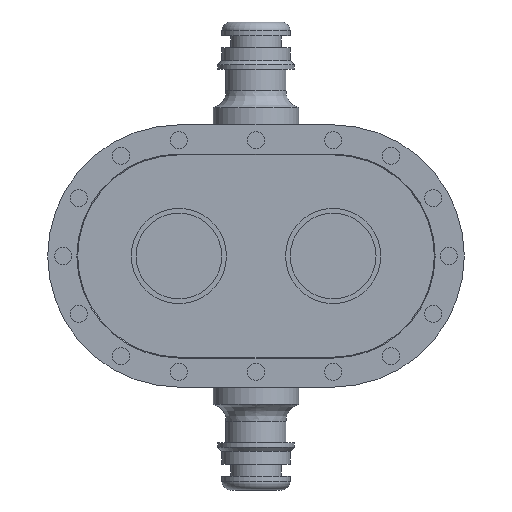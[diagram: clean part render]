
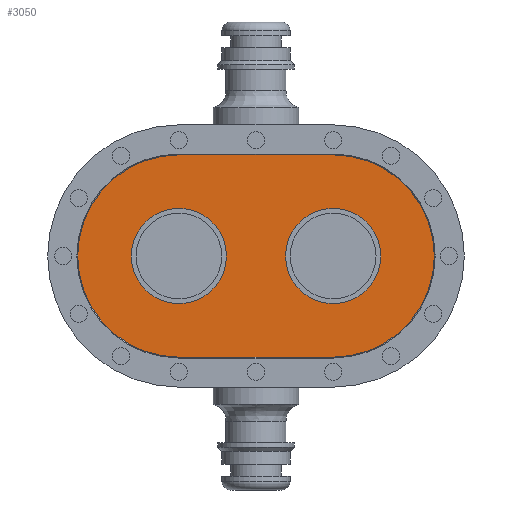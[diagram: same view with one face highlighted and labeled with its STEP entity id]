
A CAD part, front view. The second image highlights one B-rep face of the part: STEP entity #3050.
In plain terms, the highlighted planar face has unit normal (0, -1, 0).
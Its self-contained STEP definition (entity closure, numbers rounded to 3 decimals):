
#922 = PLANE('',#923);
#923 = AXIS2_PLACEMENT_3D('',#924,#925,#926);
#924 = CARTESIAN_POINT('',(-18.,0.,-23.6));
#925 = DIRECTION('',(0.,0.,1.));
#926 = DIRECTION('',(1.,0.,0.));
#975 = CYLINDRICAL_SURFACE('',#976,23.6);
#976 = AXIS2_PLACEMENT_3D('',#977,#978,#979);
#977 = CARTESIAN_POINT('',(-18.,0.,0.));
#978 = DIRECTION('',(-0.,1.,-0.));
#979 = DIRECTION('',(1.,0.,0.));
#1028 = CYLINDRICAL_SURFACE('',#1029,23.6);
#1029 = AXIS2_PLACEMENT_3D('',#1030,#1031,#1032);
#1030 = CARTESIAN_POINT('',(18.,0.,0.));
#1031 = DIRECTION('',(-0.,1.,-0.));
#1032 = DIRECTION('',(1.,0.,0.));
#1060 = PLANE('',#1061);
#1061 = AXIS2_PLACEMENT_3D('',#1062,#1063,#1064);
#1062 = CARTESIAN_POINT('',(18.,0.,23.6));
#1063 = DIRECTION('',(0.,0.,-1.));
#1064 = DIRECTION('',(-1.,0.,0.));
#2376 = VERTEX_POINT('',#2377);
#2377 = CARTESIAN_POINT('',(-18.,0.,-23.6));
#2400 = VERTEX_POINT('',#2401);
#2401 = CARTESIAN_POINT('',(18.,0.,-23.6));
#2422 = EDGE_CURVE('',#2376,#2400,#2423,.T.);
#2423 = SURFACE_CURVE('',#2424,(#2428,#2435),.PCURVE_S1.);
#2424 = LINE('',#2425,#2426);
#2425 = CARTESIAN_POINT('',(-18.,0.,-23.6));
#2426 = VECTOR('',#2427,1.);
#2427 = DIRECTION('',(1.,0.,0.));
#2428 = PCURVE('',#922,#2429);
#2429 = DEFINITIONAL_REPRESENTATION('',(#2430),#2434);
#2430 = LINE('',#2431,#2432);
#2431 = CARTESIAN_POINT('',(0.,0.));
#2432 = VECTOR('',#2433,1.);
#2433 = DIRECTION('',(1.,0.));
#2434 = ( GEOMETRIC_REPRESENTATION_CONTEXT(2) 
PARAMETRIC_REPRESENTATION_CONTEXT() REPRESENTATION_CONTEXT('2D SPACE',''
  ) );
#2435 = PCURVE('',#2436,#2441);
#2436 = PLANE('',#2437);
#2437 = AXIS2_PLACEMENT_3D('',#2438,#2439,#2440);
#2438 = CARTESIAN_POINT('',(0.,0.,0.));
#2439 = DIRECTION('',(0.,1.,0.));
#2440 = DIRECTION('',(0.,0.,1.));
#2441 = DEFINITIONAL_REPRESENTATION('',(#2442),#2446);
#2442 = LINE('',#2443,#2444);
#2443 = CARTESIAN_POINT('',(-23.6,-18.));
#2444 = VECTOR('',#2445,1.);
#2445 = DIRECTION('',(0.,1.));
#2446 = ( GEOMETRIC_REPRESENTATION_CONTEXT(2) 
PARAMETRIC_REPRESENTATION_CONTEXT() REPRESENTATION_CONTEXT('2D SPACE',''
  ) );
#2483 = VERTEX_POINT('',#2484);
#2484 = CARTESIAN_POINT('',(-18.,0.,23.6));
#2507 = EDGE_CURVE('',#2483,#2376,#2508,.T.);
#2508 = SURFACE_CURVE('',#2509,(#2514,#2521),.PCURVE_S1.);
#2509 = CIRCLE('',#2510,23.6);
#2510 = AXIS2_PLACEMENT_3D('',#2511,#2512,#2513);
#2511 = CARTESIAN_POINT('',(-18.,0.,0.));
#2512 = DIRECTION('',(0.,-1.,0.));
#2513 = DIRECTION('',(1.,0.,0.));
#2514 = PCURVE('',#975,#2515);
#2515 = DEFINITIONAL_REPRESENTATION('',(#2516),#2520);
#2516 = LINE('',#2517,#2518);
#2517 = CARTESIAN_POINT('',(-0.,0.));
#2518 = VECTOR('',#2519,1.);
#2519 = DIRECTION('',(-1.,0.));
#2520 = ( GEOMETRIC_REPRESENTATION_CONTEXT(2) 
PARAMETRIC_REPRESENTATION_CONTEXT() REPRESENTATION_CONTEXT('2D SPACE',''
  ) );
#2521 = PCURVE('',#2436,#2522);
#2522 = DEFINITIONAL_REPRESENTATION('',(#2523),#2531);
#2523 = ( BOUNDED_CURVE() B_SPLINE_CURVE(2,(#2524,#2525,#2526,#2527,
#2528,#2529,#2530),.UNSPECIFIED.,.T.,.F.) B_SPLINE_CURVE_WITH_KNOTS((1,2
    ,2,2,2,1),(-2.094,0.,2.094,4.189,
6.283,8.378),.UNSPECIFIED.) CURVE() 
GEOMETRIC_REPRESENTATION_ITEM() RATIONAL_B_SPLINE_CURVE((1.,0.5,1.,0.5,
1.,0.5,1.)) REPRESENTATION_ITEM('') );
#2524 = CARTESIAN_POINT('',(0.,5.6));
#2525 = CARTESIAN_POINT('',(40.876,5.6));
#2526 = CARTESIAN_POINT('',(20.438,-29.8));
#2527 = CARTESIAN_POINT('',(0.,-65.2));
#2528 = CARTESIAN_POINT('',(-20.438,-29.8));
#2529 = CARTESIAN_POINT('',(-40.876,5.6));
#2530 = CARTESIAN_POINT('',(0.,5.6));
#2531 = ( GEOMETRIC_REPRESENTATION_CONTEXT(2) 
PARAMETRIC_REPRESENTATION_CONTEXT() REPRESENTATION_CONTEXT('2D SPACE',''
  ) );
#2539 = VERTEX_POINT('',#2540);
#2540 = CARTESIAN_POINT('',(18.,0.,23.6));
#2561 = EDGE_CURVE('',#2400,#2539,#2562,.T.);
#2562 = SURFACE_CURVE('',#2563,(#2568,#2575),.PCURVE_S1.);
#2563 = CIRCLE('',#2564,23.6);
#2564 = AXIS2_PLACEMENT_3D('',#2565,#2566,#2567);
#2565 = CARTESIAN_POINT('',(18.,0.,0.));
#2566 = DIRECTION('',(0.,-1.,0.));
#2567 = DIRECTION('',(1.,0.,0.));
#2568 = PCURVE('',#1028,#2569);
#2569 = DEFINITIONAL_REPRESENTATION('',(#2570),#2574);
#2570 = LINE('',#2571,#2572);
#2571 = CARTESIAN_POINT('',(-0.,0.));
#2572 = VECTOR('',#2573,1.);
#2573 = DIRECTION('',(-1.,0.));
#2574 = ( GEOMETRIC_REPRESENTATION_CONTEXT(2) 
PARAMETRIC_REPRESENTATION_CONTEXT() REPRESENTATION_CONTEXT('2D SPACE',''
  ) );
#2575 = PCURVE('',#2436,#2576);
#2576 = DEFINITIONAL_REPRESENTATION('',(#2577),#2585);
#2577 = ( BOUNDED_CURVE() B_SPLINE_CURVE(2,(#2578,#2579,#2580,#2581,
#2582,#2583,#2584),.UNSPECIFIED.,.T.,.F.) B_SPLINE_CURVE_WITH_KNOTS((1,2
    ,2,2,2,1),(-2.094,0.,2.094,4.189,
6.283,8.378),.UNSPECIFIED.) CURVE() 
GEOMETRIC_REPRESENTATION_ITEM() RATIONAL_B_SPLINE_CURVE((1.,0.5,1.,0.5,
1.,0.5,1.)) REPRESENTATION_ITEM('') );
#2578 = CARTESIAN_POINT('',(0.,41.6));
#2579 = CARTESIAN_POINT('',(40.876,41.6));
#2580 = CARTESIAN_POINT('',(20.438,6.2));
#2581 = CARTESIAN_POINT('',(0.,-29.2));
#2582 = CARTESIAN_POINT('',(-20.438,6.2));
#2583 = CARTESIAN_POINT('',(-40.876,41.6));
#2584 = CARTESIAN_POINT('',(0.,41.6));
#2585 = ( GEOMETRIC_REPRESENTATION_CONTEXT(2) 
PARAMETRIC_REPRESENTATION_CONTEXT() REPRESENTATION_CONTEXT('2D SPACE',''
  ) );
#2593 = EDGE_CURVE('',#2539,#2483,#2594,.T.);
#2594 = SURFACE_CURVE('',#2595,(#2599,#2606),.PCURVE_S1.);
#2595 = LINE('',#2596,#2597);
#2596 = CARTESIAN_POINT('',(18.,0.,23.6));
#2597 = VECTOR('',#2598,1.);
#2598 = DIRECTION('',(-1.,0.,0.));
#2599 = PCURVE('',#1060,#2600);
#2600 = DEFINITIONAL_REPRESENTATION('',(#2601),#2605);
#2601 = LINE('',#2602,#2603);
#2602 = CARTESIAN_POINT('',(0.,-0.));
#2603 = VECTOR('',#2604,1.);
#2604 = DIRECTION('',(1.,0.));
#2605 = ( GEOMETRIC_REPRESENTATION_CONTEXT(2) 
PARAMETRIC_REPRESENTATION_CONTEXT() REPRESENTATION_CONTEXT('2D SPACE',''
  ) );
#2606 = PCURVE('',#2436,#2607);
#2607 = DEFINITIONAL_REPRESENTATION('',(#2608),#2612);
#2608 = LINE('',#2609,#2610);
#2609 = CARTESIAN_POINT('',(23.6,18.));
#2610 = VECTOR('',#2611,1.);
#2611 = DIRECTION('',(0.,-1.));
#2612 = ( GEOMETRIC_REPRESENTATION_CONTEXT(2) 
PARAMETRIC_REPRESENTATION_CONTEXT() REPRESENTATION_CONTEXT('2D SPACE',''
  ) );
#3050 = ADVANCED_FACE('',(#3051,#3057,#3092),#2436,.F.);
#3051 = FACE_BOUND('',#3052,.F.);
#3052 = EDGE_LOOP('',(#3053,#3054,#3055,#3056));
#3053 = ORIENTED_EDGE('',*,*,#2507,.F.);
#3054 = ORIENTED_EDGE('',*,*,#2593,.F.);
#3055 = ORIENTED_EDGE('',*,*,#2561,.F.);
#3056 = ORIENTED_EDGE('',*,*,#2422,.F.);
#3057 = FACE_BOUND('',#3058,.F.);
#3058 = EDGE_LOOP('',(#3059));
#3059 = ORIENTED_EDGE('',*,*,#3060,.T.);
#3060 = EDGE_CURVE('',#3061,#3061,#3063,.T.);
#3061 = VERTEX_POINT('',#3062);
#3062 = CARTESIAN_POINT('',(-6.9,0.,0.));
#3063 = SURFACE_CURVE('',#3064,(#3069,#3080),.PCURVE_S1.);
#3064 = CIRCLE('',#3065,11.1);
#3065 = AXIS2_PLACEMENT_3D('',#3066,#3067,#3068);
#3066 = CARTESIAN_POINT('',(-18.,0.,0.));
#3067 = DIRECTION('',(0.,-1.,0.));
#3068 = DIRECTION('',(1.,0.,0.));
#3069 = PCURVE('',#2436,#3070);
#3070 = DEFINITIONAL_REPRESENTATION('',(#3071),#3079);
#3071 = ( BOUNDED_CURVE() B_SPLINE_CURVE(2,(#3072,#3073,#3074,#3075,
#3076,#3077,#3078),.UNSPECIFIED.,.T.,.F.) B_SPLINE_CURVE_WITH_KNOTS((1,2
    ,2,2,2,1),(-2.094,0.,2.094,4.189,
6.283,8.378),.UNSPECIFIED.) CURVE() 
GEOMETRIC_REPRESENTATION_ITEM() RATIONAL_B_SPLINE_CURVE((1.,0.5,1.,0.5,
1.,0.5,1.)) REPRESENTATION_ITEM('') );
#3072 = CARTESIAN_POINT('',(0.,-6.9));
#3073 = CARTESIAN_POINT('',(19.226,-6.9));
#3074 = CARTESIAN_POINT('',(9.613,-23.55));
#3075 = CARTESIAN_POINT('',(0.,-40.2));
#3076 = CARTESIAN_POINT('',(-9.613,-23.55));
#3077 = CARTESIAN_POINT('',(-19.226,-6.9));
#3078 = CARTESIAN_POINT('',(0.,-6.9));
#3079 = ( GEOMETRIC_REPRESENTATION_CONTEXT(2) 
PARAMETRIC_REPRESENTATION_CONTEXT() REPRESENTATION_CONTEXT('2D SPACE',''
  ) );
#3080 = PCURVE('',#3081,#3086);
#3081 = CYLINDRICAL_SURFACE('',#3082,11.1);
#3082 = AXIS2_PLACEMENT_3D('',#3083,#3084,#3085);
#3083 = CARTESIAN_POINT('',(-18.,0.,0.));
#3084 = DIRECTION('',(0.,-1.,0.));
#3085 = DIRECTION('',(1.,0.,0.));
#3086 = DEFINITIONAL_REPRESENTATION('',(#3087),#3091);
#3087 = LINE('',#3088,#3089);
#3088 = CARTESIAN_POINT('',(0.,0.));
#3089 = VECTOR('',#3090,1.);
#3090 = DIRECTION('',(1.,0.));
#3091 = ( GEOMETRIC_REPRESENTATION_CONTEXT(2) 
PARAMETRIC_REPRESENTATION_CONTEXT() REPRESENTATION_CONTEXT('2D SPACE',''
  ) );
#3092 = FACE_BOUND('',#3093,.F.);
#3093 = EDGE_LOOP('',(#3094));
#3094 = ORIENTED_EDGE('',*,*,#3095,.T.);
#3095 = EDGE_CURVE('',#3096,#3096,#3098,.T.);
#3096 = VERTEX_POINT('',#3097);
#3097 = CARTESIAN_POINT('',(29.1,0.,0.));
#3098 = SURFACE_CURVE('',#3099,(#3104,#3115),.PCURVE_S1.);
#3099 = CIRCLE('',#3100,11.1);
#3100 = AXIS2_PLACEMENT_3D('',#3101,#3102,#3103);
#3101 = CARTESIAN_POINT('',(18.,0.,0.));
#3102 = DIRECTION('',(0.,-1.,0.));
#3103 = DIRECTION('',(1.,0.,0.));
#3104 = PCURVE('',#2436,#3105);
#3105 = DEFINITIONAL_REPRESENTATION('',(#3106),#3114);
#3106 = ( BOUNDED_CURVE() B_SPLINE_CURVE(2,(#3107,#3108,#3109,#3110,
#3111,#3112,#3113),.UNSPECIFIED.,.T.,.F.) B_SPLINE_CURVE_WITH_KNOTS((1,2
    ,2,2,2,1),(-2.094,0.,2.094,4.189,
6.283,8.378),.UNSPECIFIED.) CURVE() 
GEOMETRIC_REPRESENTATION_ITEM() RATIONAL_B_SPLINE_CURVE((1.,0.5,1.,0.5,
1.,0.5,1.)) REPRESENTATION_ITEM('') );
#3107 = CARTESIAN_POINT('',(0.,29.1));
#3108 = CARTESIAN_POINT('',(19.226,29.1));
#3109 = CARTESIAN_POINT('',(9.613,12.45));
#3110 = CARTESIAN_POINT('',(0.,-4.2));
#3111 = CARTESIAN_POINT('',(-9.613,12.45));
#3112 = CARTESIAN_POINT('',(-19.226,29.1));
#3113 = CARTESIAN_POINT('',(0.,29.1));
#3114 = ( GEOMETRIC_REPRESENTATION_CONTEXT(2) 
PARAMETRIC_REPRESENTATION_CONTEXT() REPRESENTATION_CONTEXT('2D SPACE',''
  ) );
#3115 = PCURVE('',#3116,#3121);
#3116 = CYLINDRICAL_SURFACE('',#3117,11.1);
#3117 = AXIS2_PLACEMENT_3D('',#3118,#3119,#3120);
#3118 = CARTESIAN_POINT('',(18.,0.,0.));
#3119 = DIRECTION('',(0.,-1.,0.));
#3120 = DIRECTION('',(1.,0.,0.));
#3121 = DEFINITIONAL_REPRESENTATION('',(#3122),#3126);
#3122 = LINE('',#3123,#3124);
#3123 = CARTESIAN_POINT('',(0.,0.));
#3124 = VECTOR('',#3125,1.);
#3125 = DIRECTION('',(1.,0.));
#3126 = ( GEOMETRIC_REPRESENTATION_CONTEXT(2) 
PARAMETRIC_REPRESENTATION_CONTEXT() REPRESENTATION_CONTEXT('2D SPACE',''
  ) );
